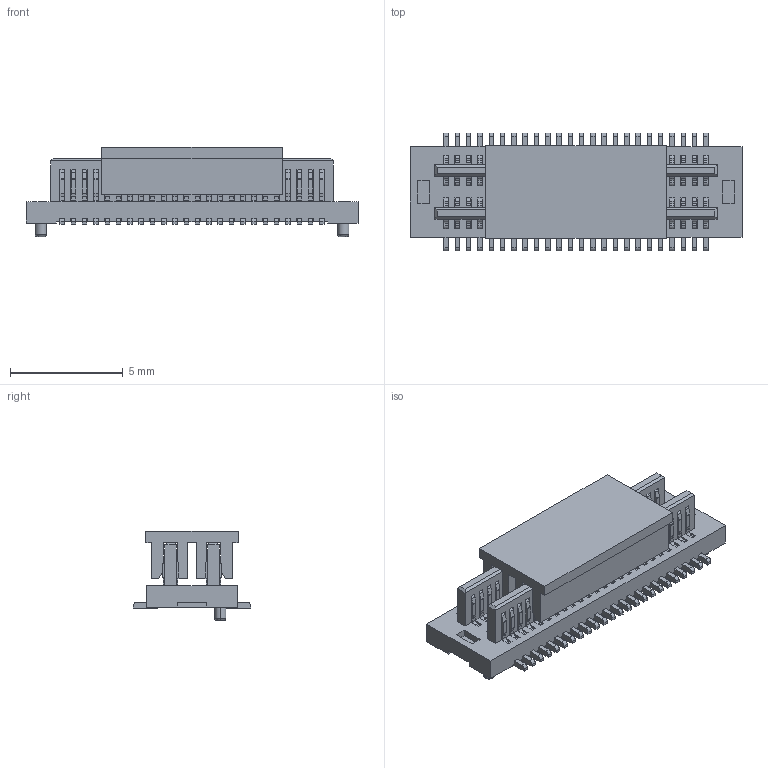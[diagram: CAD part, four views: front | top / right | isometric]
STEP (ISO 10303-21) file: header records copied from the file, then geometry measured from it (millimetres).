
FILE_DESCRIPTION(('CATIA V5 STEP Exchange'),'2;1');
FILE_NAME('F:\黄富鸿\板对板\PBB05\公座\H1.0\编带+盖\HC-PBB05-2-48-M-H1.0-G1-R-P-04（BTB0.5 双槽 公座 立贴 带柱 编带+盖）-HCTL.stp','2025-12-09T02:04:52+00:00',('none'),('none'),'CATIA Version 5 Release 20 GA (IN-10)','CATIA V5 STEP AP203','none');
FILE_SCHEMA(('CONFIG_CONTROL_DESIGN'));
Products named in the file (1): Part2
Bounding box: 14.7 x 5.2 x 3.95 mm (x, y, z)
Volume: 117 mm3; surface area: 895.4 mm2
Topology: 50 solids, 50 shells, 2768 faces, 8454 edges, 5600 vertices
Faces by surface type: plane 1800, cylinder 964, torus 4
Entity records: 80939 total; most frequent: ORIENTED_EDGE 16908, CARTESIAN_POINT 15012, DIRECTION 9024, EDGE_CURVE 8454, VECTOR 6326, LINE 6326, VERTEX_POINT 5600, EDGE_LOOP 2774
